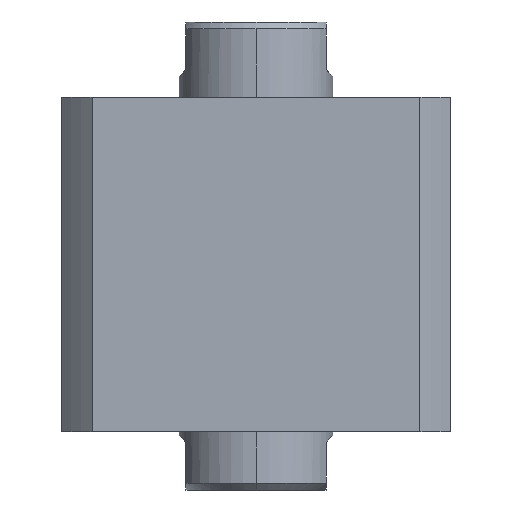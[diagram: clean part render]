
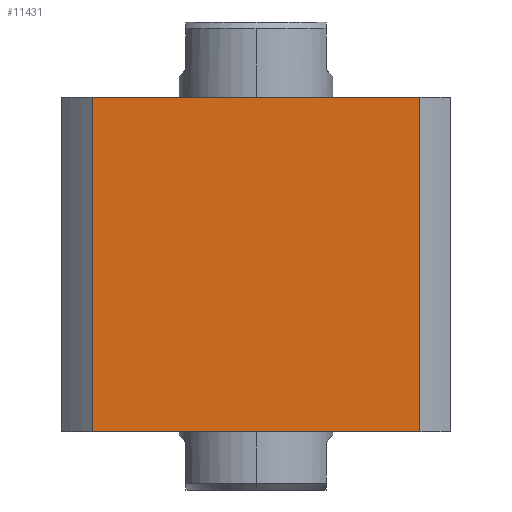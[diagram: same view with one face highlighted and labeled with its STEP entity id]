
A CAD part, front view. The second image highlights one B-rep face of the part: STEP entity #11431.
In plain terms, the highlighted planar face has unit normal (0, -1, 0) as drawn and (-1, 0, 0) by its records, which use the part's own axes.
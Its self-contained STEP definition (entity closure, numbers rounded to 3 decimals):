
#447 = LINE ( 'NONE', #8484, #13029 ) ;
#458 = CARTESIAN_POINT ( 'NONE',  ( -57., 57., 98. ) ) ;
#836 = EDGE_CURVE ( 'NONE', #7832, #9658, #1008, .T. ) ;
#1008 = LINE ( 'NONE', #8836, #7103 ) ;
#1882 = VECTOR ( 'NONE', #6337, 1000. ) ;
#2197 = EDGE_CURVE ( 'NONE', #7954, #9658, #447, .T. ) ;
#2418 = CARTESIAN_POINT ( 'NONE',  ( -57., 57., 98. ) ) ;
#2611 = LINE ( 'NONE', #7571, #1882 ) ;
#3833 = CARTESIAN_POINT ( 'NONE',  ( -57., 47.971, 98. ) ) ;
#4165 = CARTESIAN_POINT ( 'NONE',  ( -57., -47.971, 0. ) ) ;
#4405 = ORIENTED_EDGE ( 'NONE', *, *, #836, .T. ) ;
#5064 = ORIENTED_EDGE ( 'NONE', *, *, #5739, .F. ) ;
#5739 = EDGE_CURVE ( 'NONE', #13770, #7954, #14093, .T. ) ;
#6090 = DIRECTION ( 'NONE',  ( 1., 0., 0. ) ) ;
#6337 = DIRECTION ( 'NONE',  ( 0., 0., 1. ) ) ;
#6488 = AXIS2_PLACEMENT_3D ( 'NONE', #2418, #6090, #14592 ) ;
#7103 = VECTOR ( 'NONE', #11300, 1000. ) ;
#7571 = CARTESIAN_POINT ( 'NONE',  ( -57., 47.971, -2902. ) ) ;
#7832 = VERTEX_POINT ( 'NONE', #10342 ) ;
#7954 = VERTEX_POINT ( 'NONE', #10452 ) ;
#8484 = CARTESIAN_POINT ( 'NONE',  ( -57., -47.971, -2902. ) ) ;
#8493 = PLANE ( 'NONE',  #6488 ) ;
#8836 = CARTESIAN_POINT ( 'NONE',  ( -57., 57., 0. ) ) ;
#9658 = VERTEX_POINT ( 'NONE', #4165 ) ;
#10213 = DIRECTION ( 'NONE',  ( 0., -1., 0. ) ) ;
#10342 = CARTESIAN_POINT ( 'NONE',  ( -57., 47.971, 0. ) ) ;
#10452 = CARTESIAN_POINT ( 'NONE',  ( -57., -47.971, 98. ) ) ;
#10488 = VECTOR ( 'NONE', #10213, 1000. ) ;
#11300 = DIRECTION ( 'NONE',  ( 0., -1., 0. ) ) ;
#11431 = ADVANCED_FACE ( 'NONE', ( #14101 ), #8493, .F. ) ;
#12165 = DIRECTION ( 'NONE',  ( 0., 0., -1. ) ) ;
#13029 = VECTOR ( 'NONE', #12165, 1000. ) ;
#13274 = ORIENTED_EDGE ( 'NONE', *, *, #2197, .F. ) ;
#13770 = VERTEX_POINT ( 'NONE', #3833 ) ;
#13798 = EDGE_CURVE ( 'NONE', #7832, #13770, #2611, .T. ) ;
#14093 = LINE ( 'NONE', #458, #10488 ) ;
#14101 = FACE_OUTER_BOUND ( 'NONE', #14816, .T. ) ;
#14592 = DIRECTION ( 'NONE',  ( 0., 1., 0. ) ) ;
#14816 = EDGE_LOOP ( 'NONE', ( #15409, #4405, #13274, #5064 ) ) ;
#15409 = ORIENTED_EDGE ( 'NONE', *, *, #13798, .F. ) ;
